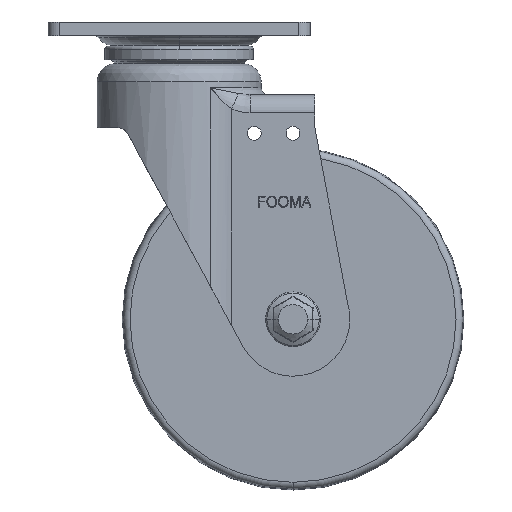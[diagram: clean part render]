
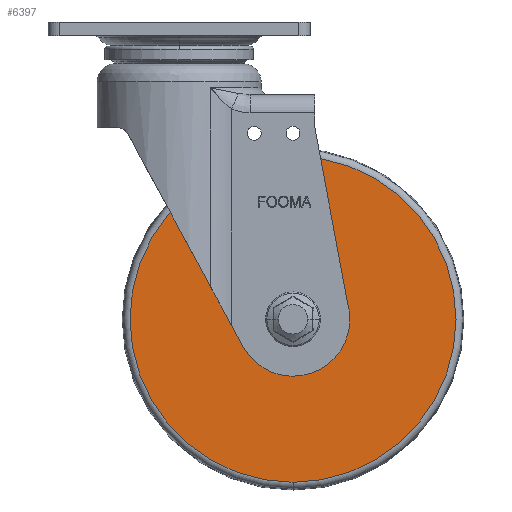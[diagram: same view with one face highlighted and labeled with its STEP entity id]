
A CAD part, front view. The second image highlights one B-rep face of the part: STEP entity #6397.
In plain terms, the highlighted planar face has unit normal (0, -1, 0) as drawn and (0, 0, 1) by its records, which use the part's own axes.
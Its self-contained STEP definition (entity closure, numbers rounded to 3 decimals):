
#3499=CARTESIAN_POINT('',(101.278,62.561,4.));
#3500=VERTEX_POINT('',#3499);
#3509=CARTESIAN_POINT('',(101.278,-80.551,4.));
#3510=VERTEX_POINT('',#3509);
#3518=CARTESIAN_POINT('',(101.278,-8.995,4.));
#3519=DIRECTION('',(0.0,0.0,-1.0));
#3520=DIRECTION('',(0.0,1.0,0.0));
#3521=AXIS2_PLACEMENT_3D('',#3518,#3519,#3520);
#3522=CIRCLE('',#3521,71.556);
#3523=EDGE_CURVE('',#3510,#3500,#3522,.T.);
#3567=CARTESIAN_POINT('',(101.278,1.005,4.));
#3568=VERTEX_POINT('',#3567);
#3577=CARTESIAN_POINT('',(101.278,-18.995,4.));
#3578=VERTEX_POINT('',#3577);
#3579=CARTESIAN_POINT('',(101.278,-8.995,4.));
#3580=DIRECTION('',(0.0,0.0,-1.0));
#3581=DIRECTION('',(0.0,1.0,0.0));
#3582=AXIS2_PLACEMENT_3D('',#3579,#3580,#3581);
#3583=CIRCLE('',#3582,10.);
#3584=EDGE_CURVE('',#3578,#3568,#3583,.T.);
#6330=CARTESIAN_POINT('',(101.278,-8.995,4.));
#6331=DIRECTION('',(0.0,0.0,-1.0));
#6332=DIRECTION('',(0.0,1.0,0.0));
#6333=AXIS2_PLACEMENT_3D('',#6330,#6331,#6332);
#6334=CIRCLE('',#6333,10.);
#6335=EDGE_CURVE('',#3568,#3578,#6334,.T.);
#6378=CARTESIAN_POINT('',(101.278,31.783,4.));
#6379=DIRECTION('',(0.0,0.0,1.0));
#6380=DIRECTION('',(0.0,-1.0,0.0));
#6381=AXIS2_PLACEMENT_3D('',#6378,#6379,#6380);
#6382=PLANE('',#6381);
#6383=CARTESIAN_POINT('',(101.278,-8.995,4.));
#6384=DIRECTION('',(0.0,0.0,-1.0));
#6385=DIRECTION('',(0.0,1.0,0.0));
#6386=AXIS2_PLACEMENT_3D('',#6383,#6384,#6385);
#6387=CIRCLE('',#6386,71.556);
#6388=EDGE_CURVE('',#3500,#3510,#6387,.T.);
#6389=ORIENTED_EDGE('',*,*,#6388,.F.);
#6390=ORIENTED_EDGE('',*,*,#3523,.F.);
#6391=EDGE_LOOP('',(#6389,#6390));
#6392=FACE_OUTER_BOUND('',#6391,.T.);
#6393=ORIENTED_EDGE('',*,*,#6335,.T.);
#6394=ORIENTED_EDGE('',*,*,#3584,.T.);
#6395=EDGE_LOOP('',(#6393,#6394));
#6396=FACE_BOUND('',#6395,.T.);
#6397=ADVANCED_FACE('',(#6392,#6396),#6382,.T.);
